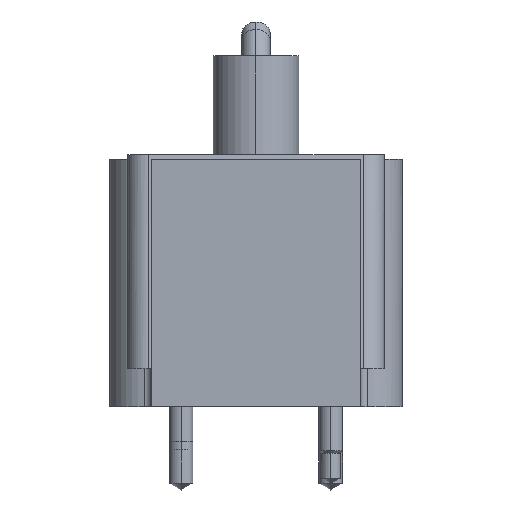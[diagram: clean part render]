
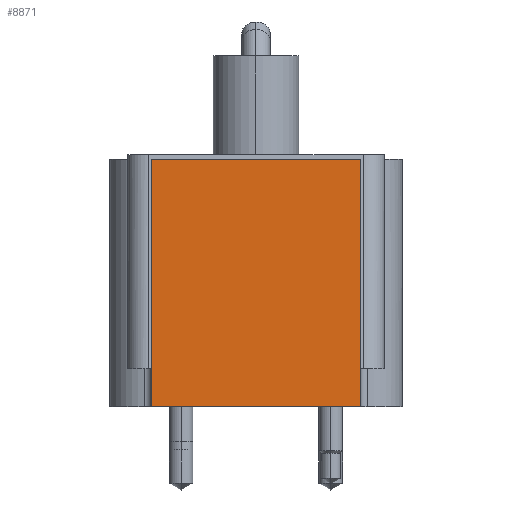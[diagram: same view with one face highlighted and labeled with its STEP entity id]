
A CAD part, left-side view. The second image highlights one B-rep face of the part: STEP entity #8871.
In plain terms, the highlighted planar face has unit normal (-1, 0, 0).
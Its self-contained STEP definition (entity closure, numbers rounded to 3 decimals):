
#8503=CARTESIAN_POINT('',(-84.201,34.988,82.55));
#8504=VERTEX_POINT('',#8503);
#8511=CARTESIAN_POINT('',(-84.201,-34.988,82.55));
#8512=VERTEX_POINT('',#8511);
#8513=CARTESIAN_POINT('',(-84.201,0.0,82.55));
#8514=DIRECTION('',(0.0,1.0,0.0));
#8515=VECTOR('',#8514,1.0);
#8516=LINE('',#8513,#8515);
#8517=EDGE_CURVE('',#8512,#8504,#8516,.T.);
#8841=CARTESIAN_POINT('',(-84.201,34.988,0.0));
#8842=VERTEX_POINT('',#8841);
#8843=CARTESIAN_POINT('',(-84.201,34.988,0.0));
#8844=DIRECTION('',(0.0,0.0,1.0));
#8845=VECTOR('',#8844,1.0);
#8846=LINE('',#8843,#8845);
#8847=EDGE_CURVE('',#8842,#8504,#8846,.T.);
#8848=ORIENTED_EDGE('',*,*,#8847,.F.);
#8849=CARTESIAN_POINT('',(-84.201,-34.988,0.0));
#8850=VERTEX_POINT('',#8849);
#8851=CARTESIAN_POINT('',(-84.201,0.0,0.0));
#8852=DIRECTION('',(0.0,-1.0,0.0));
#8853=VECTOR('',#8852,1.0);
#8854=LINE('',#8851,#8853);
#8855=EDGE_CURVE('',#8842,#8850,#8854,.T.);
#8856=ORIENTED_EDGE('',*,*,#8855,.T.);
#8857=CARTESIAN_POINT('',(-84.201,-34.988,0.0));
#8858=DIRECTION('',(0.0,0.0,-1.0));
#8859=VECTOR('',#8858,1.0);
#8860=LINE('',#8857,#8859);
#8861=EDGE_CURVE('',#8512,#8850,#8860,.T.);
#8862=ORIENTED_EDGE('',*,*,#8861,.F.);
#8863=ORIENTED_EDGE('',*,*,#8517,.T.);
#8864=EDGE_LOOP('',(#8848,#8856,#8862,#8863));
#8865=FACE_OUTER_BOUND('',#8864,.T.);
#8866=CARTESIAN_POINT('',(-84.201,0.0,0.0));
#8867=DIRECTION('',(-1.0,0.0,-0.0));
#8868=DIRECTION('',(-0.0,0.0,1.0));
#8869=AXIS2_PLACEMENT_3D('',#8866,#8867,#8868);
#8870=PLANE('',#8869);
#8871=ADVANCED_FACE('',(#8865),#8870,.T.);
